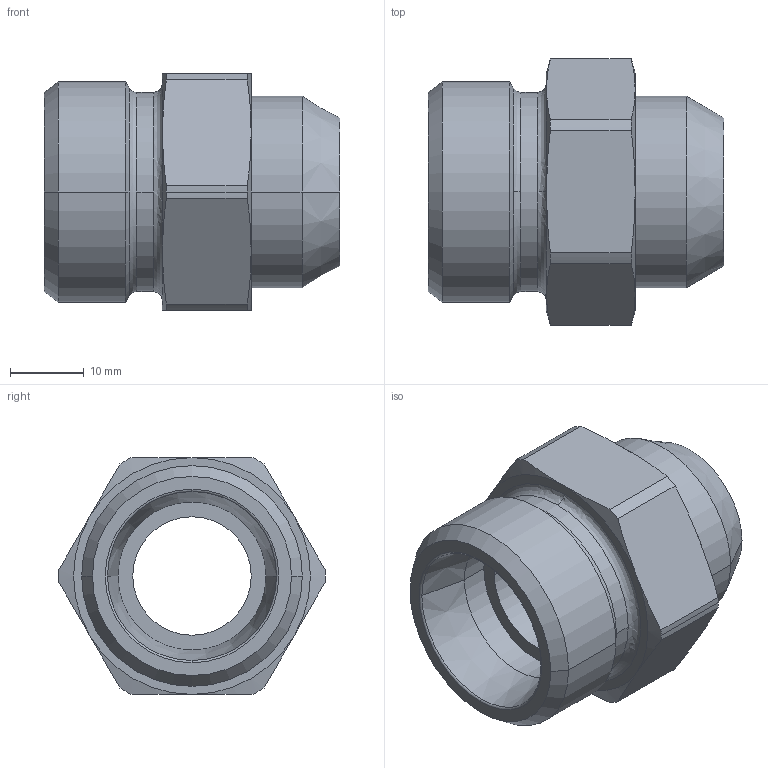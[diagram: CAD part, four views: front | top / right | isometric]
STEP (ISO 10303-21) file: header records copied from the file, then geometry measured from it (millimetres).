
FILE_DESCRIPTION((''),'2;1');
FILE_NAME('105520.stp','2007-10-31T14:02:28',(''),(''),'AutoCAD STEP 2000i','AutoCAD 2000i',', , ');
FILE_SCHEMA(('CONFIG_CONTROL_DESIGN'));
Length unit declared in the file: millimetre
Products named in the file (2): 105520.0; CHIAVE SMUSSATA#0
Assembly tree (1 placements, depth 2):
  105520.0
    CHIAVE SMUSSATA#0
Bounding box: 40 x 36 x 32 mm (x, y, z)
Volume: 17237.4 mm3; surface area: 6990.2 mm2
Topology: 1 solids, 1 shells, 57 faces, 136 edges, 84 vertices
Faces by surface type: cone 22, cylinder 18, plane 11, bspline 4, torus 2
Entity records: 1917 total; most frequent: CARTESIAN_POINT 503, DIRECTION 300, ORIENTED_EDGE 272, EDGE_CURVE 136, AXIS2_PLACEMENT_3D 133, VERTEX_POINT 84, CIRCLE 78, EDGE_LOOP 62
